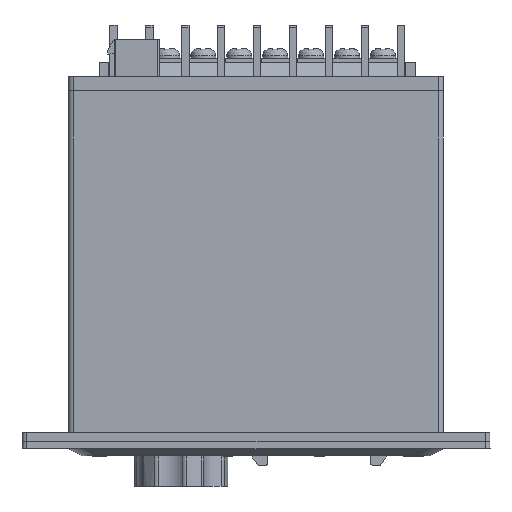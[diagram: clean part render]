
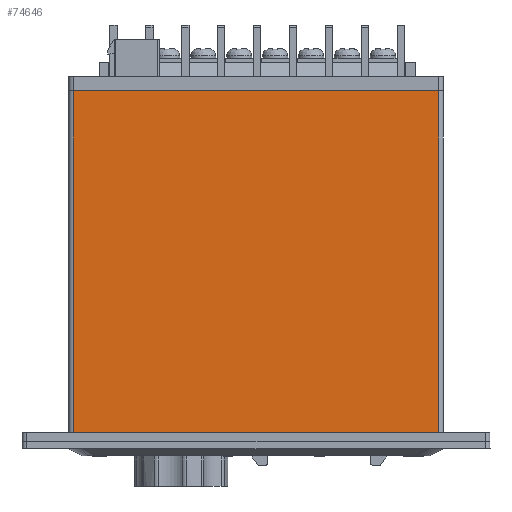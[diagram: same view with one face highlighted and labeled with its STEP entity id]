
A CAD part, left-side view. The second image highlights one B-rep face of the part: STEP entity #74646.
In plain terms, the highlighted planar face has unit normal (-1, 0, 0).
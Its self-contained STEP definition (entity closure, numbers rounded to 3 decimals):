
#7399=CARTESIAN_POINT('',(-25.75,-39.,73.0));
#7400=VERTEX_POINT('',#7399);
#7432=CARTESIAN_POINT('',(-25.75,39.0,73.0));
#7433=VERTEX_POINT('',#7432);
#7434=CARTESIAN_POINT('',(-25.75,39.0,73.0));
#7435=DIRECTION('',(0.0,-1.0,0.0));
#7436=VECTOR('',#7435,78.);
#7437=LINE('',#7434,#7436);
#7438=EDGE_CURVE('',#7433,#7400,#7437,.T.);
#34836=CARTESIAN_POINT('',(-25.75,-39.0,0.0));
#34837=VERTEX_POINT('',#34836);
#34845=CARTESIAN_POINT('',(-25.75,39.0,0.0));
#34846=VERTEX_POINT('',#34845);
#34847=CARTESIAN_POINT('',(-25.75,39.0,0.0));
#34848=DIRECTION('',(0.0,-1.0,0.0));
#34849=VECTOR('',#34848,78.0);
#34850=LINE('',#34847,#34849);
#34851=EDGE_CURVE('',#34846,#34837,#34850,.T.);
#74621=CARTESIAN_POINT('',(-25.75,-39.0,0.0));
#74622=DIRECTION('',(0.0,0.0,1.0));
#74623=VECTOR('',#74622,73.0);
#74624=LINE('',#74621,#74623);
#74625=EDGE_CURVE('',#34837,#7400,#74624,.T.);
#74630=CARTESIAN_POINT('',(-25.75,39.0,0.0));
#74631=DIRECTION('',(-1.0,0.0,0.0));
#74632=DIRECTION('',(0.0,0.0,1.0));
#74633=AXIS2_PLACEMENT_3D('',#74630,#74631,#74632);
#74634=PLANE('',#74633);
#74635=ORIENTED_EDGE('',*,*,#34851,.T.);
#74636=ORIENTED_EDGE('',*,*,#74625,.T.);
#74637=ORIENTED_EDGE('',*,*,#7438,.F.);
#74638=CARTESIAN_POINT('',(-25.75,39.0,0.0));
#74639=DIRECTION('',(0.0,0.0,1.0));
#74640=VECTOR('',#74639,73.0);
#74641=LINE('',#74638,#74640);
#74642=EDGE_CURVE('',#34846,#7433,#74641,.T.);
#74643=ORIENTED_EDGE('',*,*,#74642,.F.);
#74644=EDGE_LOOP('',(#74635,#74636,#74637,#74643));
#74645=FACE_OUTER_BOUND('',#74644,.T.);
#74646=ADVANCED_FACE('',(#74645),#74634,.T.);
